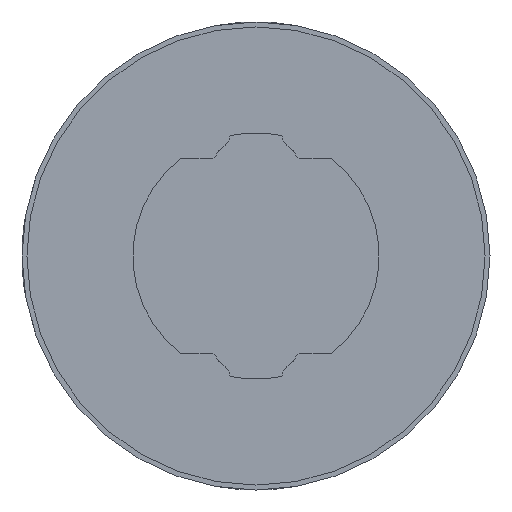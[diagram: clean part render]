
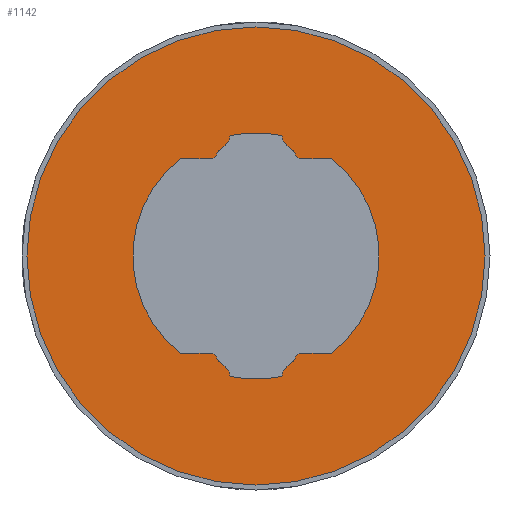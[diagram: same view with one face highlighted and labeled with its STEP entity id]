
A CAD part, left-side view. The second image highlights one B-rep face of the part: STEP entity #1142.
In plain terms, the highlighted planar face has unit normal (-1, 0, 0).
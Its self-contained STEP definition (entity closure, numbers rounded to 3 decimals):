
#46=PLANE('',#1265);
#101=LINE('',#1872,#189);
#102=LINE('',#1876,#190);
#103=LINE('',#1880,#191);
#104=LINE('',#1884,#192);
#105=LINE('',#1896,#193);
#106=LINE('',#1900,#194);
#107=LINE('',#1904,#195);
#108=LINE('',#1908,#196);
#189=VECTOR('',#1518,1000.);
#190=VECTOR('',#1521,1000.);
#191=VECTOR('',#1524,1000.);
#192=VECTOR('',#1527,1000.);
#193=VECTOR('',#1538,1000.);
#194=VECTOR('',#1541,1000.);
#195=VECTOR('',#1544,1000.);
#196=VECTOR('',#1547,1000.);
#381=ORIENTED_EDGE('',*,*,#641,.F.);
#382=ORIENTED_EDGE('',*,*,#642,.F.);
#383=ORIENTED_EDGE('',*,*,#643,.T.);
#384=ORIENTED_EDGE('',*,*,#644,.F.);
#385=ORIENTED_EDGE('',*,*,#645,.T.);
#386=ORIENTED_EDGE('',*,*,#646,.F.);
#387=ORIENTED_EDGE('',*,*,#647,.F.);
#388=ORIENTED_EDGE('',*,*,#648,.T.);
#389=ORIENTED_EDGE('',*,*,#649,.F.);
#390=ORIENTED_EDGE('',*,*,#650,.F.);
#391=ORIENTED_EDGE('',*,*,#651,.F.);
#392=ORIENTED_EDGE('',*,*,#652,.T.);
#393=ORIENTED_EDGE('',*,*,#653,.F.);
#394=ORIENTED_EDGE('',*,*,#654,.F.);
#395=ORIENTED_EDGE('',*,*,#655,.T.);
#396=ORIENTED_EDGE('',*,*,#656,.F.);
#397=ORIENTED_EDGE('',*,*,#657,.T.);
#398=ORIENTED_EDGE('',*,*,#658,.F.);
#399=ORIENTED_EDGE('',*,*,#659,.F.);
#400=ORIENTED_EDGE('',*,*,#660,.T.);
#401=ORIENTED_EDGE('',*,*,#661,.F.);
#402=ORIENTED_EDGE('',*,*,#662,.F.);
#403=ORIENTED_EDGE('',*,*,#663,.F.);
#404=ORIENTED_EDGE('',*,*,#664,.T.);
#405=ORIENTED_EDGE('',*,*,#665,.F.);
#641=EDGE_CURVE('',#783,#783,#881,.T.);
#642=EDGE_CURVE('',#784,#785,#882,.F.);
#643=EDGE_CURVE('',#784,#786,#883,.F.);
#644=EDGE_CURVE('',#787,#786,#884,.F.);
#645=EDGE_CURVE('',#787,#788,#885,.F.);
#646=EDGE_CURVE('',#789,#788,#886,.F.);
#647=EDGE_CURVE('',#790,#789,#101,.T.);
#648=EDGE_CURVE('',#790,#791,#887,.F.);
#649=EDGE_CURVE('',#792,#791,#102,.T.);
#650=EDGE_CURVE('',#793,#792,#888,.F.);
#651=EDGE_CURVE('',#794,#793,#103,.T.);
#652=EDGE_CURVE('',#794,#795,#889,.F.);
#653=EDGE_CURVE('',#796,#795,#104,.T.);
#654=EDGE_CURVE('',#797,#796,#890,.F.);
#655=EDGE_CURVE('',#797,#798,#891,.F.);
#656=EDGE_CURVE('',#799,#798,#892,.F.);
#657=EDGE_CURVE('',#799,#800,#893,.F.);
#658=EDGE_CURVE('',#801,#800,#894,.F.);
#659=EDGE_CURVE('',#802,#801,#105,.T.);
#660=EDGE_CURVE('',#802,#803,#895,.F.);
#661=EDGE_CURVE('',#804,#803,#106,.T.);
#662=EDGE_CURVE('',#805,#804,#896,.F.);
#663=EDGE_CURVE('',#806,#805,#107,.T.);
#664=EDGE_CURVE('',#806,#807,#897,.F.);
#665=EDGE_CURVE('',#785,#807,#108,.T.);
#783=VERTEX_POINT('',#1860);
#784=VERTEX_POINT('',#1862);
#785=VERTEX_POINT('',#1863);
#786=VERTEX_POINT('',#1865);
#787=VERTEX_POINT('',#1867);
#788=VERTEX_POINT('',#1869);
#789=VERTEX_POINT('',#1871);
#790=VERTEX_POINT('',#1873);
#791=VERTEX_POINT('',#1875);
#792=VERTEX_POINT('',#1877);
#793=VERTEX_POINT('',#1879);
#794=VERTEX_POINT('',#1881);
#795=VERTEX_POINT('',#1883);
#796=VERTEX_POINT('',#1885);
#797=VERTEX_POINT('',#1887);
#798=VERTEX_POINT('',#1889);
#799=VERTEX_POINT('',#1891);
#800=VERTEX_POINT('',#1893);
#801=VERTEX_POINT('',#1895);
#802=VERTEX_POINT('',#1897);
#803=VERTEX_POINT('',#1899);
#804=VERTEX_POINT('',#1901);
#805=VERTEX_POINT('',#1903);
#806=VERTEX_POINT('',#1905);
#807=VERTEX_POINT('',#1907);
#881=CIRCLE('',#1266,9.3);
#882=CIRCLE('',#1267,0.2);
#883=CIRCLE('',#1268,0.8);
#884=CIRCLE('',#1269,5.);
#885=CIRCLE('',#1270,0.8);
#886=CIRCLE('',#1271,0.2);
#887=CIRCLE('',#1272,0.2);
#888=CIRCLE('',#1273,5.);
#889=CIRCLE('',#1274,0.2);
#890=CIRCLE('',#1275,0.2);
#891=CIRCLE('',#1276,0.8);
#892=CIRCLE('',#1277,5.);
#893=CIRCLE('',#1278,0.8);
#894=CIRCLE('',#1279,0.2);
#895=CIRCLE('',#1280,0.2);
#896=CIRCLE('',#1281,5.);
#897=CIRCLE('',#1282,0.2);
#947=EDGE_LOOP('',(#381));
#948=EDGE_LOOP('',(#382,#383,#384,#385,#386,#387,#388,#389,#390,#391,#392,
#393,#394,#395,#396,#397,#398,#399,#400,#401,#402,#403,#404,#405));
#1025=FACE_BOUND('',#947,.T.);
#1026=FACE_BOUND('',#948,.T.);
#1142=ADVANCED_FACE('',(#1025,#1026),#46,.F.);
#1265=AXIS2_PLACEMENT_3D('',#1858,#1504,#1505);
#1266=AXIS2_PLACEMENT_3D('',#1859,#1506,#1507);
#1267=AXIS2_PLACEMENT_3D('',#1861,#1508,#1509);
#1268=AXIS2_PLACEMENT_3D('',#1864,#1510,#1511);
#1269=AXIS2_PLACEMENT_3D('',#1866,#1512,#1513);
#1270=AXIS2_PLACEMENT_3D('',#1868,#1514,#1515);
#1271=AXIS2_PLACEMENT_3D('',#1870,#1516,#1517);
#1272=AXIS2_PLACEMENT_3D('',#1874,#1519,#1520);
#1273=AXIS2_PLACEMENT_3D('',#1878,#1522,#1523);
#1274=AXIS2_PLACEMENT_3D('',#1882,#1525,#1526);
#1275=AXIS2_PLACEMENT_3D('',#1886,#1528,#1529);
#1276=AXIS2_PLACEMENT_3D('',#1888,#1530,#1531);
#1277=AXIS2_PLACEMENT_3D('',#1890,#1532,#1533);
#1278=AXIS2_PLACEMENT_3D('',#1892,#1534,#1535);
#1279=AXIS2_PLACEMENT_3D('',#1894,#1536,#1537);
#1280=AXIS2_PLACEMENT_3D('',#1898,#1539,#1540);
#1281=AXIS2_PLACEMENT_3D('',#1902,#1542,#1543);
#1282=AXIS2_PLACEMENT_3D('',#1906,#1545,#1546);
#1504=DIRECTION('',(1.,0.,0.));
#1505=DIRECTION('',(0.,0.,-1.));
#1506=DIRECTION('',(1.,0.,0.));
#1507=DIRECTION('',(0.,0.,-1.));
#1508=DIRECTION('',(1.,0.,0.));
#1509=DIRECTION('',(0.,0.,-1.));
#1510=DIRECTION('',(1.,0.,0.));
#1511=DIRECTION('',(0.,0.,-1.));
#1512=DIRECTION('',(1.,0.,0.));
#1513=DIRECTION('',(0.,0.,-1.));
#1514=DIRECTION('',(1.,0.,0.));
#1515=DIRECTION('',(0.,0.,-1.));
#1516=DIRECTION('',(1.,0.,0.));
#1517=DIRECTION('',(0.,0.,-1.));
#1518=DIRECTION('',(0.,0.5,0.866));
#1519=DIRECTION('',(1.,0.,0.));
#1520=DIRECTION('',(0.,0.,-1.));
#1521=DIRECTION('',(0.,1.,0.));
#1522=DIRECTION('',(1.,0.,0.));
#1523=DIRECTION('',(0.,0.,-1.));
#1524=DIRECTION('',(0.,-1.,0.));
#1525=DIRECTION('',(1.,0.,0.));
#1526=DIRECTION('',(0.,0.,-1.));
#1527=DIRECTION('',(0.,-0.5,0.866));
#1528=DIRECTION('',(1.,0.,0.));
#1529=DIRECTION('',(0.,0.,-1.));
#1530=DIRECTION('',(1.,0.,0.));
#1531=DIRECTION('',(0.,0.,-1.));
#1532=DIRECTION('',(1.,0.,0.));
#1533=DIRECTION('',(0.,0.,-1.));
#1534=DIRECTION('',(1.,0.,0.));
#1535=DIRECTION('',(0.,0.,-1.));
#1536=DIRECTION('',(1.,0.,0.));
#1537=DIRECTION('',(0.,0.,-1.));
#1538=DIRECTION('',(0.,-0.5,-0.866));
#1539=DIRECTION('',(1.,0.,0.));
#1540=DIRECTION('',(0.,0.,-1.));
#1541=DIRECTION('',(0.,-1.,0.));
#1542=DIRECTION('',(1.,0.,0.));
#1543=DIRECTION('',(0.,0.,-1.));
#1544=DIRECTION('',(0.,1.,0.));
#1545=DIRECTION('',(1.,0.,0.));
#1546=DIRECTION('',(0.,0.,-1.));
#1547=DIRECTION('',(0.,0.5,-0.866));
#1858=CARTESIAN_POINT('',(-15.4,0.,0.));
#1859=CARTESIAN_POINT('',(-15.4,0.,0.));
#1860=CARTESIAN_POINT('',(-15.4,0.,-9.3));
#1861=CARTESIAN_POINT('',(-15.4,1.354,4.148));
#1862=CARTESIAN_POINT('',(-15.4,1.449,4.324));
#1863=CARTESIAN_POINT('',(-15.4,1.527,4.248));
#1864=CARTESIAN_POINT('',(-15.4,1.83,5.027));
#1865=CARTESIAN_POINT('',(-15.4,1.042,4.89));
#1866=CARTESIAN_POINT('',(-15.4,0.,0.));
#1867=CARTESIAN_POINT('',(-15.4,-1.042,4.89));
#1868=CARTESIAN_POINT('',(-15.4,-1.83,5.027));
#1869=CARTESIAN_POINT('',(-15.4,-1.449,4.324));
#1870=CARTESIAN_POINT('',(-15.4,-1.354,4.148));
#1871=CARTESIAN_POINT('',(-15.4,-1.527,4.248));
#1872=CARTESIAN_POINT('',(-15.4,-2.985,1.723));
#1873=CARTESIAN_POINT('',(-15.4,-1.642,4.05));
#1874=CARTESIAN_POINT('',(-15.4,-1.815,4.15));
#1875=CARTESIAN_POINT('',(-15.4,-1.815,3.95));
#1876=CARTESIAN_POINT('',(-15.4,0.,3.95));
#1877=CARTESIAN_POINT('',(-15.4,-3.066,3.95));
#1878=CARTESIAN_POINT('',(-15.4,0.,0.));
#1879=CARTESIAN_POINT('',(-15.4,-3.066,-3.95));
#1880=CARTESIAN_POINT('',(-15.4,0.,-3.95));
#1881=CARTESIAN_POINT('',(-15.4,-1.815,-3.95));
#1882=CARTESIAN_POINT('',(-15.4,-1.815,-4.15));
#1883=CARTESIAN_POINT('',(-15.4,-1.642,-4.05));
#1884=CARTESIAN_POINT('',(-15.4,-2.985,-1.723));
#1885=CARTESIAN_POINT('',(-15.4,-1.527,-4.248));
#1886=CARTESIAN_POINT('',(-15.4,-1.354,-4.148));
#1887=CARTESIAN_POINT('',(-15.4,-1.449,-4.324));
#1888=CARTESIAN_POINT('',(-15.4,-1.83,-5.027));
#1889=CARTESIAN_POINT('',(-15.4,-1.042,-4.89));
#1890=CARTESIAN_POINT('',(-15.4,0.,0.));
#1891=CARTESIAN_POINT('',(-15.4,1.042,-4.89));
#1892=CARTESIAN_POINT('',(-15.4,1.83,-5.027));
#1893=CARTESIAN_POINT('',(-15.4,1.449,-4.324));
#1894=CARTESIAN_POINT('',(-15.4,1.354,-4.148));
#1895=CARTESIAN_POINT('',(-15.4,1.527,-4.248));
#1896=CARTESIAN_POINT('',(-15.4,2.985,-1.723));
#1897=CARTESIAN_POINT('',(-15.4,1.642,-4.05));
#1898=CARTESIAN_POINT('',(-15.4,1.815,-4.15));
#1899=CARTESIAN_POINT('',(-15.4,1.815,-3.95));
#1900=CARTESIAN_POINT('',(-15.4,0.,-3.95));
#1901=CARTESIAN_POINT('',(-15.4,3.066,-3.95));
#1902=CARTESIAN_POINT('',(-15.4,0.,0.));
#1903=CARTESIAN_POINT('',(-15.4,3.066,3.95));
#1904=CARTESIAN_POINT('',(-15.4,0.,3.95));
#1905=CARTESIAN_POINT('',(-15.4,1.815,3.95));
#1906=CARTESIAN_POINT('',(-15.4,1.815,4.15));
#1907=CARTESIAN_POINT('',(-15.4,1.642,4.05));
#1908=CARTESIAN_POINT('',(-15.4,2.985,1.723));
